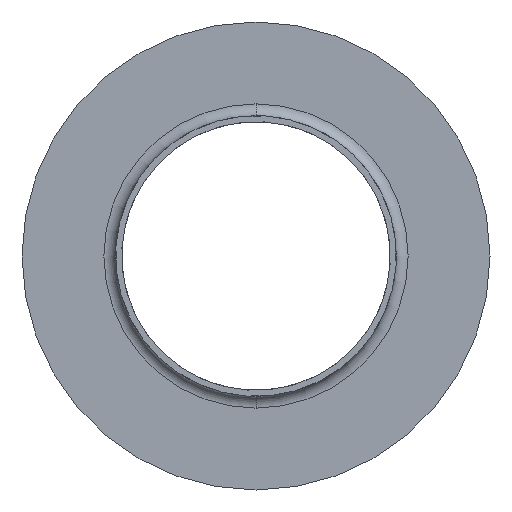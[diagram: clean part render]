
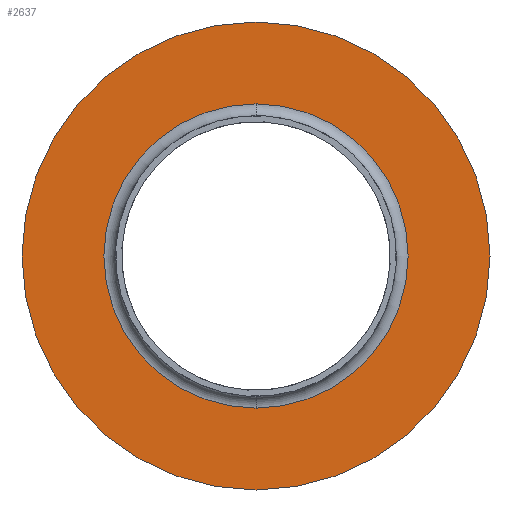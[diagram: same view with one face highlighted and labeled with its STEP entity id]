
A CAD part, front view. The second image highlights one B-rep face of the part: STEP entity #2637.
In plain terms, the highlighted planar face has unit normal (0, -1, 0).
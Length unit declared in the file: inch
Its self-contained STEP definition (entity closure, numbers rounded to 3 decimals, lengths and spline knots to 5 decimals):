
#83 = EDGE_CURVE ( 'NONE', #1584, #2385, #1970, .T. ) ;
#100 = CARTESIAN_POINT ( 'NONE',  ( 0., 0.35189, -2.5 ) ) ;
#101 = EDGE_CURVE ( 'NONE', #907, #1553, #1008, .T. ) ;
#122 = DIRECTION ( 'NONE',  ( 0., -1., 0. ) ) ;
#230 = AXIS2_PLACEMENT_3D ( 'NONE', #581, #2589, #2045 ) ;
#235 = ORIENTED_EDGE ( 'NONE', *, *, #2405, .F. ) ;
#238 = DIRECTION ( 'NONE',  ( 0., 0., -1. ) ) ;
#333 = FACE_OUTER_BOUND ( 'NONE', #1786, .T. ) ;
#376 = AXIS2_PLACEMENT_3D ( 'NONE', #2188, #451, #2473 ) ;
#451 = DIRECTION ( 'NONE',  ( 0., -1., 0. ) ) ;
#581 = CARTESIAN_POINT ( 'NONE',  ( 0., 0.35189, 0. ) ) ;
#661 = ORIENTED_EDGE ( 'NONE', *, *, #83, .T. ) ;
#678 = CIRCLE ( 'NONE', #376, 2.5 ) ;
#681 = DIRECTION ( 'NONE',  ( 0., 1., 0. ) ) ;
#907 = VERTEX_POINT ( 'NONE', #3439 ) ;
#1008 = CIRCLE ( 'NONE', #230, 1.625 ) ;
#1465 = DIRECTION ( 'NONE',  ( 0., -1., 0. ) ) ;
#1553 = VERTEX_POINT ( 'NONE', #3014 ) ;
#1584 = VERTEX_POINT ( 'NONE', #3308 ) ;
#1775 = FACE_BOUND ( 'NONE', #2248, .T. ) ;
#1786 = EDGE_LOOP ( 'NONE', ( #2367, #661 ) ) ;
#1834 = PLANE ( 'NONE',  #2767 ) ;
#1857 = CARTESIAN_POINT ( 'NONE',  ( 0., 0.35189, 0. ) ) ;
#1970 = CIRCLE ( 'NONE', #3181, 2.5 ) ;
#2045 = DIRECTION ( 'NONE',  ( 0., 0., -1. ) ) ;
#2144 = DIRECTION ( 'NONE',  ( 0., 0., -1. ) ) ;
#2188 = CARTESIAN_POINT ( 'NONE',  ( 0., 0.35189, 0. ) ) ;
#2248 = EDGE_LOOP ( 'NONE', ( #235, #2940 ) ) ;
#2367 = ORIENTED_EDGE ( 'NONE', *, *, #2489, .T. ) ;
#2385 = VERTEX_POINT ( 'NONE', #100 ) ;
#2405 = EDGE_CURVE ( 'NONE', #1553, #907, #3062, .T. ) ;
#2410 = CARTESIAN_POINT ( 'NONE',  ( -2.5, 0.35189, 0. ) ) ;
#2473 = DIRECTION ( 'NONE',  ( 0., 0., -1. ) ) ;
#2489 = EDGE_CURVE ( 'NONE', #2385, #1584, #678, .T. ) ;
#2580 = AXIS2_PLACEMENT_3D ( 'NONE', #1857, #122, #2144 ) ;
#2589 = DIRECTION ( 'NONE',  ( 0., -1., 0. ) ) ;
#2637 = ADVANCED_FACE ( 'NONE', ( #1775, #333 ), #1834, .F. ) ;
#2694 = DIRECTION ( 'NONE',  ( 0., 0., 1. ) ) ;
#2767 = AXIS2_PLACEMENT_3D ( 'NONE', #2410, #681, #2694 ) ;
#2940 = ORIENTED_EDGE ( 'NONE', *, *, #101, .F. ) ;
#3014 = CARTESIAN_POINT ( 'NONE',  ( 0., 0.35189, -1.625 ) ) ;
#3062 = CIRCLE ( 'NONE', #2580, 1.625 ) ;
#3181 = AXIS2_PLACEMENT_3D ( 'NONE', #3468, #1465, #238 ) ;
#3308 = CARTESIAN_POINT ( 'NONE',  ( 0., 0.35189, 2.5 ) ) ;
#3439 = CARTESIAN_POINT ( 'NONE',  ( 0., 0.35189, 1.625 ) ) ;
#3468 = CARTESIAN_POINT ( 'NONE',  ( 0., 0.35189, 0. ) ) ;
